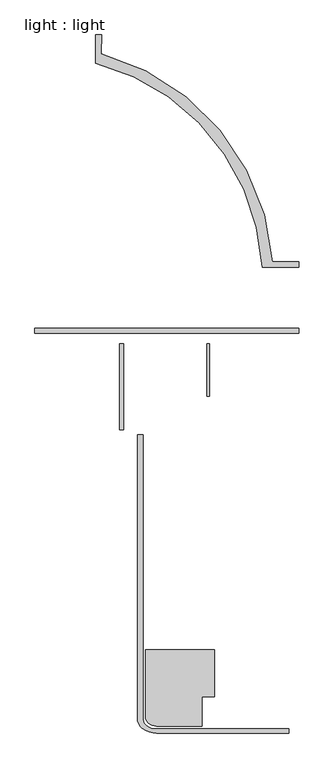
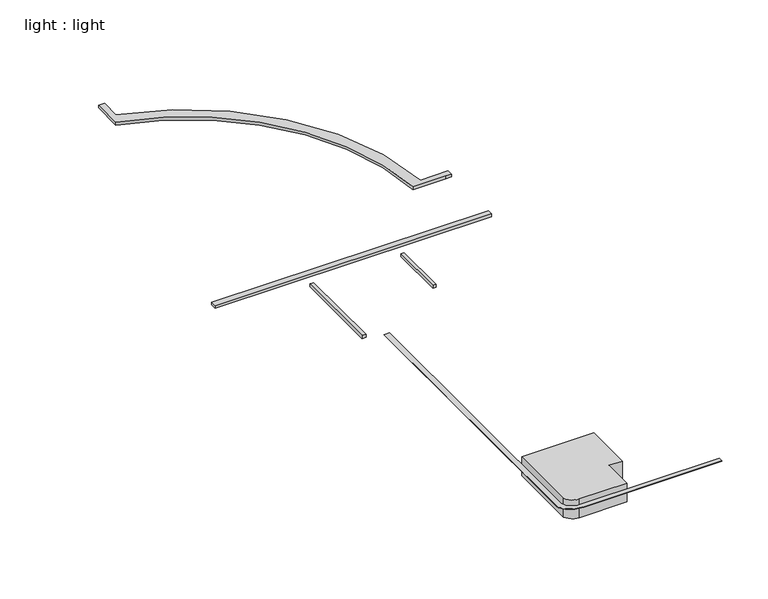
"""IFC4 building model written with IfcOpenShell, lengths in millimetres: proxy geometry, light : light."""

from ifc_helpers import new_model, si_unit, point, frame, frame_2d, origin, place, context, project, spatial, polyline, circle_curve, trimmed, segment, composite_curve, outline, extrude, source, transform, mapped, element, save


def light_light_89e77f11(model_context):
    return source(origin(), model_context, "Body", "SweptSolid", [
        extrude(outline(polyline([(96296.4385254, 19952.3905873), (96296.4385254, 18334.4281393), (96224.9879055, 18334.4281393), (96224.9879055, 19952.3905873), (96296.4385254, 19952.3905873)])), frame((0.0, 0.0, 2841.892058), z_axis=(0.0, 0.0, 1.0), x_axis=(1.0, 0.0, 0.0)), (0.0, 0.0, 1.0), 58.107942),
        extrude(outline(polyline([(97918.8776741, 19952.3905873), (97918.8776741, 18958.8111171), (97863.8776741, 18958.8111171), (97863.8776741, 19952.3905873), (97918.8776741, 19952.3905873)])), frame((0.0, 0.0, 2841.892058), z_axis=(0.0, 0.0, 1.0), x_axis=(1.0, 0.0, 0.0)), (0.0, 0.0, 1.0), 58.107942),
        extrude(outline(composite_curve([segment(polyline([(96563.359081, 12898.0091506), (96563.359081, 18234.4281393), (96663.359081, 18234.4281393), (96663.359081, 12890.597886)]), True, "CONTINUOUS"), segment(trimmed(circle_curve(frame_2d((96884.3502509, 12940.1660917)), 226.4820174), [point((96663.359081, 12890.597886))], [point((96884.3502509, 12713.6840743))], True, "CARTESIAN"), True, "CONTINUOUS"), segment(polyline([(96884.3502509, 12713.6840743), (99404.3502509, 12713.6840743), (99404.3502509, 12634.5259381), (96923.357081, 12634.5259381)]), True, "CONTINUOUS"), segment(trimmed(circle_curve(frame_2d((96923.357081, 13090.5891915)), 456.0632534), [point((96923.357081, 12634.5259381))], [point((96649.0379607, 12726.2504599))], False, "CARTESIAN"), True, "CONTINUOUS"), segment(trimmed(circle_curve(frame_2d((96778.359081, 12898.0091506)), 215.0), [point((96649.0379607, 12726.2504599))], [point((96563.359081, 12898.0091506))], False, "CARTESIAN"), True, "CONTINUOUS")], self_intersect=False)), frame((0.0, 0.0, 2851.8587505), z_axis=(0.0, 0.0, 1.0), x_axis=(1.0, 0.0, 0.0)), (0.0, 0.0, 1.0), 9.1574923),
        extrude(outline(composite_curve([segment(trimmed(circle_curve(frame_2d((94731.7076088, 21164.6149049)), 4183.1448048), [point((98908.8005556, 21389.5481667))], [point((95778.0231854, 25214.7907248))], True, "CARTESIAN"), True, "CONTINUOUS"), segment(polyline([(95778.0231854, 25214.7907248), (95778.0231854, 25749.7421525), (95883.0231854, 25749.7421525), (95875.1195151, 25395.9938282)]), True, "CONTINUOUS"), segment(trimmed(circle_curve(frame_2d((94731.7076088, 21164.6149049)), 4383.1448048), [point((95875.1195151, 25395.9938282))], [point((99102.7917713, 21489.5481667))], False, "CARTESIAN"), True, "CONTINUOUS"), segment(polyline([(99102.7917713, 21489.5481667), (99598.9736341, 21489.5481667), (99598.9736341, 21389.5481667), (99498.9736341, 21389.5481667), (98908.8005556, 21389.5481667)]), True, "CONTINUOUS")], self_intersect=False)), frame((0.0, 0.0, 2880.0), z_axis=(0.0, 0.0, 1.0), x_axis=(1.0, 0.0, 0.0)), (0.0, 0.0, 1.0), 50.0),
        extrude(outline(polyline([(99598.9736341, 20243.4970592), (99598.9736341, 20143.4970592), (94630.8109317, 20143.4970592), (94630.8109317, 20243.4970592), (99598.9736341, 20243.4970592)])), frame((0.0, 0.0, 2880.0), z_axis=(0.0, 0.0, 1.0), x_axis=(1.0, 0.0, 0.0)), (0.0, 0.0, 1.0), 50.0),
        extrude(outline(composite_curve([segment(polyline([(96713.359081, 12900.7131458), (96713.359081, 14201.0304058), (98013.359081, 14201.0304058), (98013.359081, 13321.0304058), (97773.359081, 13321.0304058), (97773.359081, 12764.5259381), (96923.357081, 12764.5259381)]), True, "CONTINUOUS"), segment(trimmed(circle_curve(frame_2d((96923.357081, 12994.5259381)), 230.0), [point((96923.357081, 12764.5259381))], [point((96713.359081, 12900.7131458))], False, "CARTESIAN"), True, "CONTINUOUS")], self_intersect=False)), frame((0.0, 0.0, 2576.230913), z_axis=(0.0, 0.0, 1.0), x_axis=(1.0, 0.0, 0.0)), (0.0, 0.0, 1.0), 353.769087),
    ])


if __name__ == "__main__":
    model = new_model("IFC4")
    model_context = context("Model", 3, world=origin())
    ifc_project = project(units=[si_unit("LENGTHUNIT", "METRE", prefix="MILLI")], contexts=[model_context])
    site = spatial("IfcSite", under=ifc_project)
    building = spatial("IfcBuilding", under=site)
    placement = place(None, origin())
    light_light_shape = light_light_89e77f11(model_context)
    element("IfcBuildingElementProxy", 1, Name="light : light", ObjectType="light : light", at=placement, inside=building, context=model_context, shape_type="MappedRepresentation", body=[
        mapped(light_light_shape, transform((0.0, 0.0, 0.0), x_axis=(1.0, 0.0, 0.0), y_axis=(0.0, 1.0, 0.0), z_axis=(0.0, 0.0, 1.0))),
    ])
    save(model, "model.ifc")
